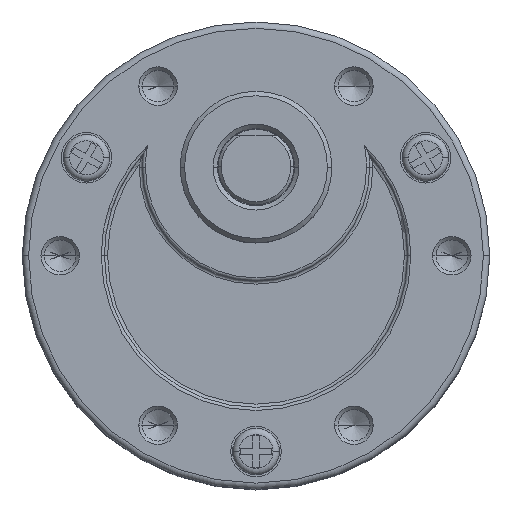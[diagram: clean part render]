
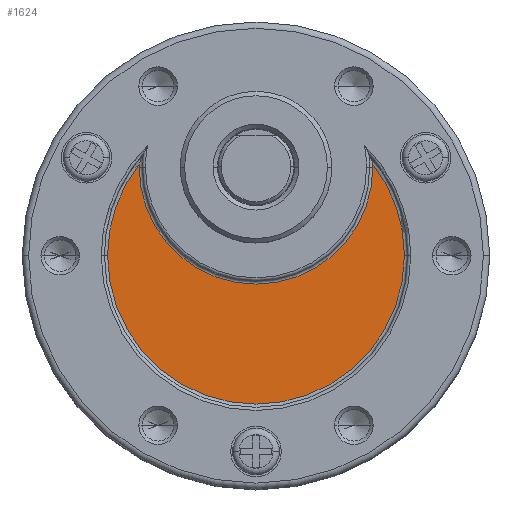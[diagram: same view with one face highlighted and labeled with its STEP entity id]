
A CAD part, top view. The second image highlights one B-rep face of the part: STEP entity #1624.
In plain terms, the highlighted planar face has unit normal (0, 0, 1).
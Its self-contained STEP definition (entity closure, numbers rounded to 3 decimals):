
#1482 = EDGE_LOOP ( 'NONE', ( #1628, #1625, #1644, #1642, #1837, #1798 ) ) ;
#1624 = ADVANCED_FACE ( 'NONE', ( #7526 ), #7046, .T. ) ;
#1625 = ORIENTED_EDGE ( 'NONE', *, *, #5863, .T. ) ;
#1628 = ORIENTED_EDGE ( 'NONE', *, *, #5891, .T. ) ;
#1630 = VERTEX_POINT ( 'NONE', #7283 ) ;
#1642 = ORIENTED_EDGE ( 'NONE', *, *, #1690, .T. ) ;
#1643 = EDGE_CURVE ( 'NONE', #5864, #1630, #7551, .T. ) ;
#1644 = ORIENTED_EDGE ( 'NONE', *, *, #1643, .T. ) ;
#1690 = EDGE_CURVE ( 'NONE', #1630, #5813, #7734, .T. ) ;
#1798 = ORIENTED_EDGE ( 'NONE', *, *, #5866, .T. ) ;
#1837 = ORIENTED_EDGE ( 'NONE', *, *, #5782, .T. ) ;
#2528 = DIRECTION ( 'NONE',  ( 1., 0., 0. ) ) ;
#2529 = DIRECTION ( 'NONE',  ( 0., 0., 1. ) ) ;
#2530 = CARTESIAN_POINT ( 'NONE',  ( 0., 0., -0.5 ) ) ;
#2531 = AXIS2_PLACEMENT_3D ( 'NONE', #2530, #2529, #2528 ) ;
#2535 = CIRCLE ( 'NONE', #2531, 11.75 ) ;
#2593 = CARTESIAN_POINT ( 'NONE',  ( 9.25, 7., -0.5 ) ) ;
#2663 = CARTESIAN_POINT ( 'NONE',  ( -11.75, 0., -0.5 ) ) ;
#2683 = CARTESIAN_POINT ( 'NONE',  ( 11.75, 0., -0.5 ) ) ;
#2768 = CARTESIAN_POINT ( 'NONE',  ( 9.247, 7.25, -0.5 ) ) ;
#2776 = CIRCLE ( 'NONE', #2790, 9.25 ) ;
#2790 = AXIS2_PLACEMENT_3D ( 'NONE', #2821, #2810, #2809 ) ;
#2805 = CARTESIAN_POINT ( 'NONE',  ( 0., 0., -0.5 ) ) ;
#2809 = DIRECTION ( 'NONE',  ( 1., 0., 0. ) ) ;
#2810 = DIRECTION ( 'NONE',  ( 0., 0., -1. ) ) ;
#2811 = AXIS2_PLACEMENT_3D ( 'NONE', #2805, #2813, #2864 ) ;
#2812 = CARTESIAN_POINT ( 'NONE',  ( -9.25, 7., -0.5 ) ) ;
#2813 = DIRECTION ( 'NONE',  ( 0., 0., 1. ) ) ;
#2817 = CIRCLE ( 'NONE', #2811, 11.75 ) ;
#2821 = CARTESIAN_POINT ( 'NONE',  ( 0., 7., -0.5 ) ) ;
#2835 = AXIS2_PLACEMENT_3D ( 'NONE', #2836, #2851, #2888 ) ;
#2836 = CARTESIAN_POINT ( 'NONE',  ( 0., 7., -0.5 ) ) ;
#2837 = CIRCLE ( 'NONE', #2835, 9.25 ) ;
#2851 = DIRECTION ( 'NONE',  ( 0., 0., -1. ) ) ;
#2864 = DIRECTION ( 'NONE',  ( 1., 0., 0. ) ) ;
#2888 = DIRECTION ( 'NONE',  ( 1., 0., 0. ) ) ;
#5782 = EDGE_CURVE ( 'NONE', #5813, #5819, #2535, .T. ) ;
#5789 = VERTEX_POINT ( 'NONE', #2593 ) ;
#5813 = VERTEX_POINT ( 'NONE', #2663 ) ;
#5819 = VERTEX_POINT ( 'NONE', #2683 ) ;
#5849 = VERTEX_POINT ( 'NONE', #2768 ) ;
#5863 = EDGE_CURVE ( 'NONE', #5789, #5864, #2776, .T. ) ;
#5864 = VERTEX_POINT ( 'NONE', #2812 ) ;
#5866 = EDGE_CURVE ( 'NONE', #5819, #5849, #2817, .T. ) ;
#5891 = EDGE_CURVE ( 'NONE', #5849, #5789, #2837, .T. ) ;
#7046 = PLANE ( 'NONE',  #7069 ) ;
#7068 = CARTESIAN_POINT ( 'NONE',  ( 0., 3.5, -0.5 ) ) ;
#7069 = AXIS2_PLACEMENT_3D ( 'NONE', #7068, #7459, #7540 ) ;
#7283 = CARTESIAN_POINT ( 'NONE',  ( -9.247, 7.25, -0.5 ) ) ;
#7459 = DIRECTION ( 'NONE',  ( 0., 0., 1. ) ) ;
#7526 = FACE_OUTER_BOUND ( 'NONE', #1482, .T. ) ;
#7540 = DIRECTION ( 'NONE',  ( 1., 0., 0. ) ) ;
#7551 = CIRCLE ( 'NONE', #7594, 9.25 ) ;
#7590 = DIRECTION ( 'NONE',  ( 1., 0., 0. ) ) ;
#7591 = DIRECTION ( 'NONE',  ( 0., 0., -1. ) ) ;
#7592 = CARTESIAN_POINT ( 'NONE',  ( 0., 7., -0.5 ) ) ;
#7594 = AXIS2_PLACEMENT_3D ( 'NONE', #7592, #7591, #7590 ) ;
#7670 = AXIS2_PLACEMENT_3D ( 'NONE', #7765, #7764, #7763 ) ;
#7734 = CIRCLE ( 'NONE', #7670, 11.75 ) ;
#7763 = DIRECTION ( 'NONE',  ( 1., 0., 0. ) ) ;
#7764 = DIRECTION ( 'NONE',  ( 0., 0., 1. ) ) ;
#7765 = CARTESIAN_POINT ( 'NONE',  ( 0., 0., -0.5 ) ) ;
